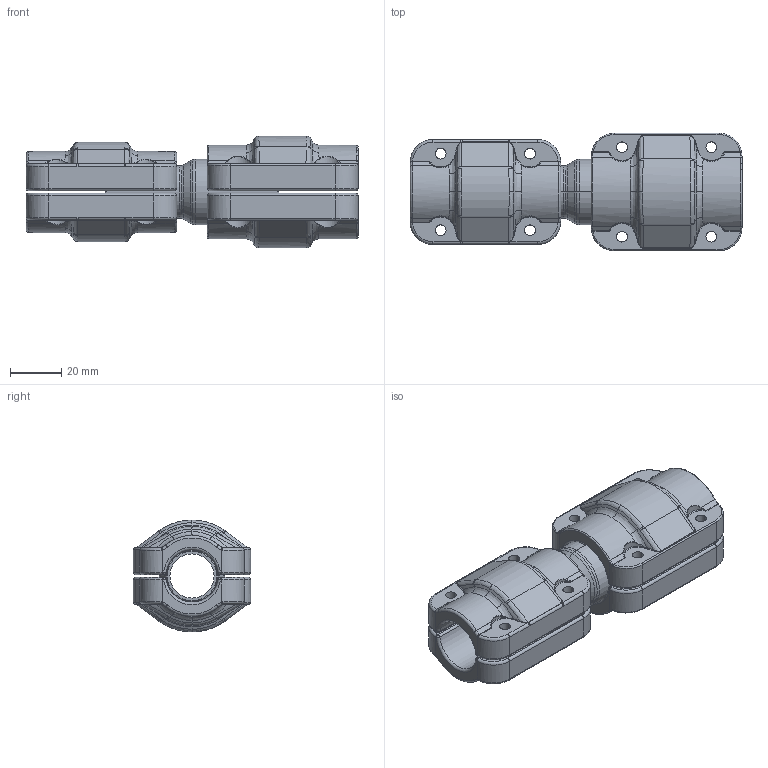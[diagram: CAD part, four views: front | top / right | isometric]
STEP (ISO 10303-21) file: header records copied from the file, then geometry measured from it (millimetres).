
FILE_DESCRIPTION((''),'2;1');
FILE_NAME('2015212199_ASM','2017-05-12T',('Administrator'),(''),'PRO/ENGINEER BY PARAMETRIC TECHNOLOGY CORPORATION, 2009360','PRO/ENGINEER BY PARAMETRIC TECHNOLOGY CORPORATION, 2009360','');
FILE_SCHEMA(('AUTOMOTIVE_DESIGN_CC2 { 1 2 10303 214 -1 1 5 2 }'));
Length unit declared in the file: millimetre
Products named in the file (8): 2015212100; 201510020000_38; 201510020001_10; 2015100200_ASM; 201520020000_23; 201520020001_10; 2015200200_ASM; 2015212199_ASM
Assembly tree (7 placements, depth 3):
  2015212199_ASM
    2015212100
    2015100200_ASM
      201510020000_38
      201510020001_10
    2015200200_ASM
      201520020000_23
      201520020001_10
Bounding box: 130 x 46 x 43.8 mm (x, y, z)
Volume: 99326.3 mm3; surface area: 44878.5 mm2
Topology: 5 solids, 11 shells, 720 faces, 1668 edges, 970 vertices
Faces by surface type: bspline 280, cylinder 216, torus 124, plane 68, cone 16, sphere 16
Entity records: 35447 total; most frequent: CARTESIAN_POINT 16002, ORIENTED_EDGE 3336, DIRECTION 2492, PRESENTATION_STYLE_ASSIGNMENT 1673, STYLED_ITEM 1673, CURVE_STYLE 1668, EDGE_CURVE 1668, AXIS2_PLACEMENT_3D 1073
